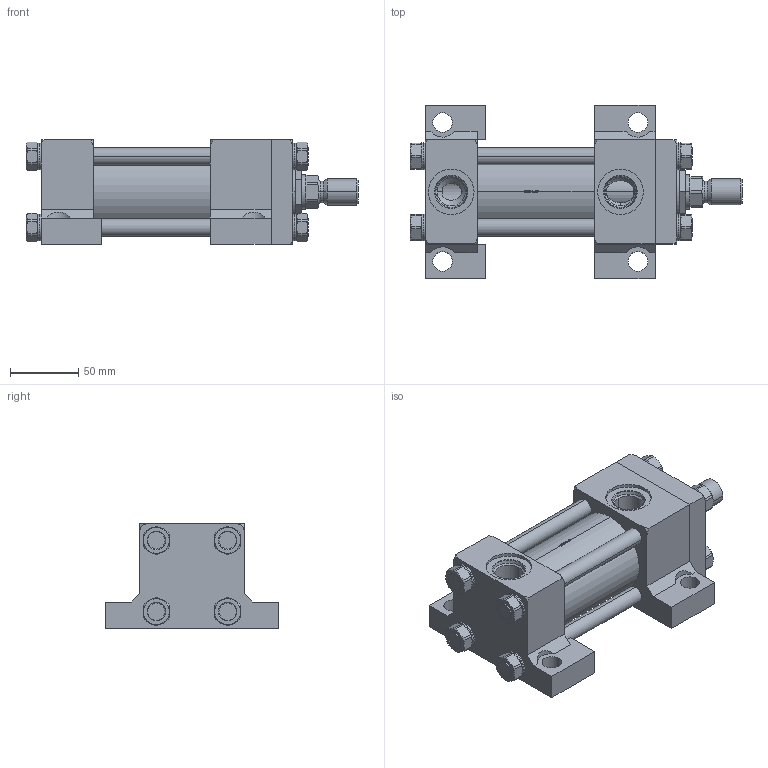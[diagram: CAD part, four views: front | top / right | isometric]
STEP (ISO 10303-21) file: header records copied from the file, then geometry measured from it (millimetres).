
FILE_DESCRIPTION (( 'STEP AP214' ), '1' );
FILE_NAME ('2.00C2HHNAT114A2.000.step', '2026-03-26T21:12:12', ( '' ), ( '' ), 'SwSTEP 2.0', 'SolidWorks 2023', '' );
FILE_SCHEMA (( 'AUTOMOTIVE_DESIGN' ));
Length unit declared in the file: inch
Products named in the file (1): 2.00C2HHNAT114A2.000
Bounding box: 242.89 x 127 x 76.2 mm (x, y, z)
Volume: 855820.6 mm3; surface area: 224306.6 mm2
Topology: 44 solids, 44 shells, 1206 faces, 3109 edges, 1999 vertices
Faces by surface type: plane 784, cylinder 220, cone 164, bspline 30, torus 8
Entity records: 54403 total; most frequent: CARTESIAN_POINT 10645, ORIENTED_EDGE 6218, DIRECTION 5095, EDGE_CURVE 3109, VERTEX_POINT 1999, AXIS2_PLACEMENT_3D 1731, VECTOR 1633, LINE 1633
